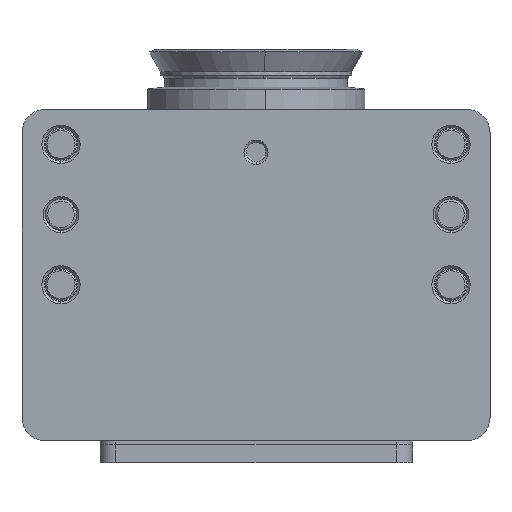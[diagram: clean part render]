
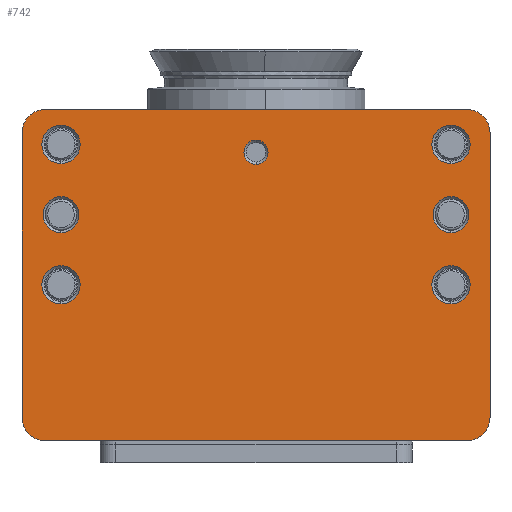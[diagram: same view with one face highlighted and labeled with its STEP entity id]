
A CAD part, front view. The second image highlights one B-rep face of the part: STEP entity #742.
In plain terms, the highlighted planar face has unit normal (0, -1, 0).
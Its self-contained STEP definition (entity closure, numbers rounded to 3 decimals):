
#189=FACE_BOUND('',#3286,.T.);
#190=FACE_BOUND('',#3287,.T.);
#191=FACE_BOUND('',#3288,.T.);
#192=FACE_BOUND('',#3289,.T.);
#193=FACE_BOUND('',#3290,.T.);
#194=FACE_BOUND('',#3291,.T.);
#195=FACE_BOUND('',#3292,.T.);
#742=ADVANCED_FACE('',(#189,#190,#191,#192,#193,#194,#195,#2290),#1703,.F.);
#1703=PLANE('',#15756);
#2290=FACE_OUTER_BOUND('',#3293,.T.);
#3286=EDGE_LOOP('',(#5460,#5461));
#3287=EDGE_LOOP('',(#5462,#5463));
#3288=EDGE_LOOP('',(#5464,#5465));
#3289=EDGE_LOOP('',(#5466,#5467));
#3290=EDGE_LOOP('',(#5468,#5469));
#3291=EDGE_LOOP('',(#5470,#5471));
#3292=EDGE_LOOP('',(#5472,#5473));
#3293=EDGE_LOOP('',(#5474,#5475,#5476,#5477,#5478,#5479,#5480,#5481));
#4384=CIRCLE('',#15688,2.45);
#4386=CIRCLE('',#15691,2.3);
#4389=CIRCLE('',#15695,2.45);
#4391=CIRCLE('',#15698,2.45);
#4393=CIRCLE('',#15701,2.45);
#4395=CIRCLE('',#15704,2.3);
#4397=CIRCLE('',#15707,1.55);
#4419=CIRCLE('',#15745,1.55);
#4420=CIRCLE('',#15746,2.3);
#4421=CIRCLE('',#15747,2.45);
#4422=CIRCLE('',#15748,2.45);
#4423=CIRCLE('',#15749,2.45);
#4424=CIRCLE('',#15750,2.3);
#4425=CIRCLE('',#15751,2.45);
#4426=CIRCLE('',#15752,3.);
#4427=CIRCLE('',#15753,3.);
#4428=CIRCLE('',#15754,3.);
#4429=CIRCLE('',#15755,3.);
#5460=ORIENTED_EDGE('',*,*,#11024,.T.);
#5461=ORIENTED_EDGE('',*,*,#11120,.T.);
#5462=ORIENTED_EDGE('',*,*,#11020,.T.);
#5463=ORIENTED_EDGE('',*,*,#11121,.T.);
#5464=ORIENTED_EDGE('',*,*,#11016,.T.);
#5465=ORIENTED_EDGE('',*,*,#11122,.T.);
#5466=ORIENTED_EDGE('',*,*,#11012,.T.);
#5467=ORIENTED_EDGE('',*,*,#11123,.T.);
#5468=ORIENTED_EDGE('',*,*,#11008,.T.);
#5469=ORIENTED_EDGE('',*,*,#11124,.T.);
#5470=ORIENTED_EDGE('',*,*,#11003,.T.);
#5471=ORIENTED_EDGE('',*,*,#11125,.T.);
#5472=ORIENTED_EDGE('',*,*,#10999,.T.);
#5473=ORIENTED_EDGE('',*,*,#11126,.T.);
#5474=ORIENTED_EDGE('',*,*,#11064,.T.);
#5475=ORIENTED_EDGE('',*,*,#11127,.T.);
#5476=ORIENTED_EDGE('',*,*,#11128,.F.);
#5477=ORIENTED_EDGE('',*,*,#11129,.T.);
#5478=ORIENTED_EDGE('',*,*,#11106,.F.);
#5479=ORIENTED_EDGE('',*,*,#11130,.T.);
#5480=ORIENTED_EDGE('',*,*,#11118,.T.);
#5481=ORIENTED_EDGE('',*,*,#11131,.T.);
#9674=VERTEX_POINT('',#22684);
#9675=VERTEX_POINT('',#22686);
#9678=VERTEX_POINT('',#22693);
#9679=VERTEX_POINT('',#22695);
#9683=VERTEX_POINT('',#22704);
#9684=VERTEX_POINT('',#22706);
#9687=VERTEX_POINT('',#22713);
#9688=VERTEX_POINT('',#22715);
#9691=VERTEX_POINT('',#22722);
#9692=VERTEX_POINT('',#22724);
#9695=VERTEX_POINT('',#22731);
#9696=VERTEX_POINT('',#22733);
#9698=VERTEX_POINT('',#22739);
#9699=VERTEX_POINT('',#22741);
#9727=VERTEX_POINT('',#22817);
#9728=VERTEX_POINT('',#22819);
#9763=VERTEX_POINT('',#22900);
#9764=VERTEX_POINT('',#22902);
#9772=VERTEX_POINT('',#22922);
#9773=VERTEX_POINT('',#22924);
#9774=VERTEX_POINT('',#22935);
#9775=VERTEX_POINT('',#22937);
#10999=EDGE_CURVE('',#9675,#9674,#4384,.T.);
#11003=EDGE_CURVE('',#9679,#9678,#4386,.T.);
#11008=EDGE_CURVE('',#9684,#9683,#4389,.T.);
#11012=EDGE_CURVE('',#9688,#9687,#4391,.T.);
#11016=EDGE_CURVE('',#9692,#9691,#4393,.T.);
#11020=EDGE_CURVE('',#9696,#9695,#4395,.T.);
#11024=EDGE_CURVE('',#9699,#9698,#4397,.T.);
#11064=EDGE_CURVE('',#9728,#9727,#13135,.T.);
#11106=EDGE_CURVE('',#9763,#9764,#13168,.T.);
#11118=EDGE_CURVE('',#9773,#9772,#13178,.T.);
#11120=EDGE_CURVE('',#9698,#9699,#4419,.T.);
#11121=EDGE_CURVE('',#9695,#9696,#4420,.T.);
#11122=EDGE_CURVE('',#9691,#9692,#4421,.T.);
#11123=EDGE_CURVE('',#9687,#9688,#4422,.T.);
#11124=EDGE_CURVE('',#9683,#9684,#4423,.T.);
#11125=EDGE_CURVE('',#9678,#9679,#4424,.T.);
#11126=EDGE_CURVE('',#9674,#9675,#4425,.T.);
#11127=EDGE_CURVE('',#9727,#9774,#4426,.T.);
#11128=EDGE_CURVE('',#9775,#9774,#13180,.T.);
#11129=EDGE_CURVE('',#9775,#9764,#4427,.T.);
#11130=EDGE_CURVE('',#9763,#9773,#4428,.T.);
#11131=EDGE_CURVE('',#9772,#9728,#4429,.T.);
#13135=LINE('',#22818,#14419);
#13168=LINE('',#22901,#14452);
#13178=LINE('',#22923,#14462);
#13180=LINE('',#22936,#14464);
#14419=VECTOR('',#17830,1.);
#14452=VECTOR('',#17891,1.);
#14462=VECTOR('',#17907,1.);
#14464=VECTOR('',#17927,1.);
#15688=AXIS2_PLACEMENT_3D('',#22685,#17711,#17712);
#15691=AXIS2_PLACEMENT_3D('',#22694,#17719,#17720);
#15695=AXIS2_PLACEMENT_3D('',#22705,#17729,#17730);
#15698=AXIS2_PLACEMENT_3D('',#22714,#17737,#17738);
#15701=AXIS2_PLACEMENT_3D('',#22723,#17745,#17746);
#15704=AXIS2_PLACEMENT_3D('',#22732,#17753,#17754);
#15707=AXIS2_PLACEMENT_3D('',#22740,#17761,#17762);
#15745=AXIS2_PLACEMENT_3D('',#22927,#17911,#17912);
#15746=AXIS2_PLACEMENT_3D('',#22928,#17913,#17914);
#15747=AXIS2_PLACEMENT_3D('',#22929,#17915,#17916);
#15748=AXIS2_PLACEMENT_3D('',#22930,#17917,#17918);
#15749=AXIS2_PLACEMENT_3D('',#22931,#17919,#17920);
#15750=AXIS2_PLACEMENT_3D('',#22932,#17921,#17922);
#15751=AXIS2_PLACEMENT_3D('',#22933,#17923,#17924);
#15752=AXIS2_PLACEMENT_3D('',#22934,#17925,#17926);
#15753=AXIS2_PLACEMENT_3D('',#22938,#17928,#17929);
#15754=AXIS2_PLACEMENT_3D('',#22939,#17930,#17931);
#15755=AXIS2_PLACEMENT_3D('',#22940,#17932,#17933);
#15756=AXIS2_PLACEMENT_3D('',#22941,#17934,#17935);
#17711=DIRECTION('',(0.,1.,0.));
#17712=DIRECTION('',(0.,0.,-1.));
#17719=DIRECTION('',(0.,1.,0.));
#17720=DIRECTION('',(0.,0.,-1.));
#17729=DIRECTION('',(0.,1.,0.));
#17730=DIRECTION('',(0.,0.,-1.));
#17737=DIRECTION('',(0.,1.,0.));
#17738=DIRECTION('',(0.,0.,-1.));
#17745=DIRECTION('',(0.,1.,0.));
#17746=DIRECTION('',(0.,0.,-1.));
#17753=DIRECTION('',(0.,1.,0.));
#17754=DIRECTION('',(0.,0.,-1.));
#17761=DIRECTION('',(0.,1.,0.));
#17762=DIRECTION('',(0.,0.,-1.));
#17830=DIRECTION('',(-1.,0.,0.));
#17891=DIRECTION('',(-1.,0.,0.));
#17907=DIRECTION('',(0.,0.,1.));
#17911=DIRECTION('',(0.,1.,0.));
#17912=DIRECTION('',(0.,0.,-1.));
#17913=DIRECTION('',(0.,1.,0.));
#17914=DIRECTION('',(0.,0.,-1.));
#17915=DIRECTION('',(0.,1.,0.));
#17916=DIRECTION('',(0.,0.,-1.));
#17917=DIRECTION('',(0.,1.,0.));
#17918=DIRECTION('',(0.,0.,-1.));
#17919=DIRECTION('',(0.,1.,0.));
#17920=DIRECTION('',(0.,0.,-1.));
#17921=DIRECTION('',(0.,1.,0.));
#17922=DIRECTION('',(0.,0.,-1.));
#17923=DIRECTION('',(0.,1.,0.));
#17924=DIRECTION('',(0.,0.,-1.));
#17925=DIRECTION('',(0.,-1.,0.));
#17926=DIRECTION('',(0.,0.,-1.));
#17927=DIRECTION('',(0.,0.,1.));
#17928=DIRECTION('',(0.,-1.,0.));
#17929=DIRECTION('',(0.,0.,-1.));
#17930=DIRECTION('',(0.,-1.,0.));
#17931=DIRECTION('',(0.,0.,-1.));
#17932=DIRECTION('',(0.,-1.,0.));
#17933=DIRECTION('',(0.,0.,-1.));
#17934=DIRECTION('',(0.,1.,0.));
#17935=DIRECTION('',(0.,0.,-1.));
#22684=CARTESIAN_POINT('',(-25.,-21.25,-6.95));
#22685=CARTESIAN_POINT('',(-25.,-21.25,-4.5));
#22686=CARTESIAN_POINT('',(-25.,-21.25,-2.05));
#22693=CARTESIAN_POINT('',(-25.,-21.25,-15.8));
#22694=CARTESIAN_POINT('',(-25.,-21.25,-13.5));
#22695=CARTESIAN_POINT('',(-25.,-21.25,-11.2));
#22704=CARTESIAN_POINT('',(-25.,-21.25,-24.95));
#22705=CARTESIAN_POINT('',(-25.,-21.25,-22.5));
#22706=CARTESIAN_POINT('',(-25.,-21.25,-20.05));
#22713=CARTESIAN_POINT('',(25.,-21.25,-6.95));
#22714=CARTESIAN_POINT('',(25.,-21.25,-4.5));
#22715=CARTESIAN_POINT('',(25.,-21.25,-2.05));
#22722=CARTESIAN_POINT('',(25.,-21.25,-24.95));
#22723=CARTESIAN_POINT('',(25.,-21.25,-22.5));
#22724=CARTESIAN_POINT('',(25.,-21.25,-20.05));
#22731=CARTESIAN_POINT('',(25.,-21.25,-15.8));
#22732=CARTESIAN_POINT('',(25.,-21.25,-13.5));
#22733=CARTESIAN_POINT('',(25.,-21.25,-11.2));
#22739=CARTESIAN_POINT('',(0.,-21.25,-7.05));
#22740=CARTESIAN_POINT('',(0.,-21.25,-5.5));
#22741=CARTESIAN_POINT('',(0.,-21.25,-3.95));
#22817=CARTESIAN_POINT('',(-27.,-21.25,0.));
#22818=CARTESIAN_POINT('',(30.,-21.25,0.));
#22819=CARTESIAN_POINT('',(27.,-21.25,0.));
#22900=CARTESIAN_POINT('',(27.,-21.25,-42.5));
#22901=CARTESIAN_POINT('',(30.,-21.25,-42.5));
#22902=CARTESIAN_POINT('',(-27.,-21.25,-42.5));
#22922=CARTESIAN_POINT('',(30.,-21.25,-3.));
#22923=CARTESIAN_POINT('',(30.,-21.25,-45.));
#22924=CARTESIAN_POINT('',(30.,-21.25,-39.5));
#22927=CARTESIAN_POINT('',(0.,-21.25,-5.5));
#22928=CARTESIAN_POINT('',(25.,-21.25,-13.5));
#22929=CARTESIAN_POINT('',(25.,-21.25,-22.5));
#22930=CARTESIAN_POINT('',(25.,-21.25,-4.5));
#22931=CARTESIAN_POINT('',(-25.,-21.25,-22.5));
#22932=CARTESIAN_POINT('',(-25.,-21.25,-13.5));
#22933=CARTESIAN_POINT('',(-25.,-21.25,-4.5));
#22934=CARTESIAN_POINT('',(-27.,-21.25,-3.));
#22935=CARTESIAN_POINT('',(-30.,-21.25,-3.));
#22936=CARTESIAN_POINT('',(-30.,-21.25,-45.));
#22937=CARTESIAN_POINT('',(-30.,-21.25,-39.5));
#22938=CARTESIAN_POINT('',(-27.,-21.25,-39.5));
#22939=CARTESIAN_POINT('',(27.,-21.25,-39.5));
#22940=CARTESIAN_POINT('',(27.,-21.25,-3.));
#22941=CARTESIAN_POINT('',(30.,-21.25,-45.));
